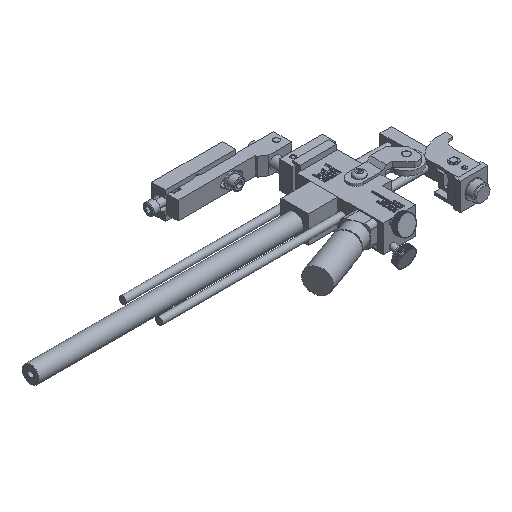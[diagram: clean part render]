
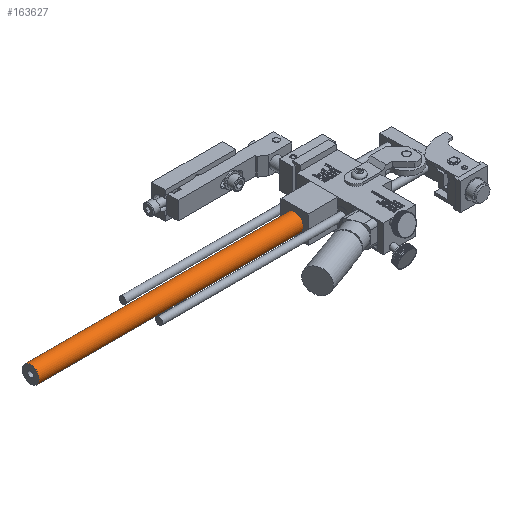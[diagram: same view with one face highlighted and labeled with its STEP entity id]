
A CAD part, isometric view. The second image highlights one B-rep face of the part: STEP entity #163627.
In plain terms, the highlighted cylindrical face has radius 5.969 mm (diameter 11.938 mm), a full revolution.
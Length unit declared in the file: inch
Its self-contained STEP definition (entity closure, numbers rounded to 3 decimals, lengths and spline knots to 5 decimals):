
#163305=CARTESIAN_POINT('',(-1.4995,0.8125,0.61));
#163306=VERTEX_POINT('',#163305);
#163307=CARTESIAN_POINT('',(-1.4995,0.8125,0.375));
#163308=DIRECTION('',(1.0,0.0,0.0));
#163309=DIRECTION('',(0.0,0.0,-1.0));
#163310=AXIS2_PLACEMENT_3D('',#163307,#163308,#163309);
#163311=CIRCLE('',#163310,0.235);
#163312=EDGE_CURVE('',#163306,#163306,#163311,.T.);
#163593=CARTESIAN_POINT('',(-8.7495,0.8125,0.61));
#163594=VERTEX_POINT('',#163593);
#163595=CARTESIAN_POINT('',(-8.7495,0.8125,0.375));
#163596=DIRECTION('',(1.0,0.0,0.0));
#163597=DIRECTION('',(0.0,0.0,-1.0));
#163598=AXIS2_PLACEMENT_3D('',#163595,#163596,#163597);
#163599=CIRCLE('',#163598,0.235);
#163600=EDGE_CURVE('',#163594,#163594,#163599,.T.);
#163616=CARTESIAN_POINT('',(-1.4995,0.8125,0.375));
#163617=DIRECTION('',(-1.0,0.,0.));
#163618=DIRECTION('',(0.0,0.0,-1.0));
#163619=AXIS2_PLACEMENT_3D('',#163616,#163617,#163618);
#163620=CYLINDRICAL_SURFACE('',#163619,0.235);
#163621=ORIENTED_EDGE('',*,*,#163600,.T.);
#163622=EDGE_LOOP('',(#163621));
#163623=FACE_OUTER_BOUND('',#163622,.T.);
#163624=ORIENTED_EDGE('',*,*,#163312,.F.);
#163625=EDGE_LOOP('',(#163624));
#163626=FACE_BOUND('',#163625,.T.);
#163627=ADVANCED_FACE('',(#163623,#163626),#163620,.T.);
